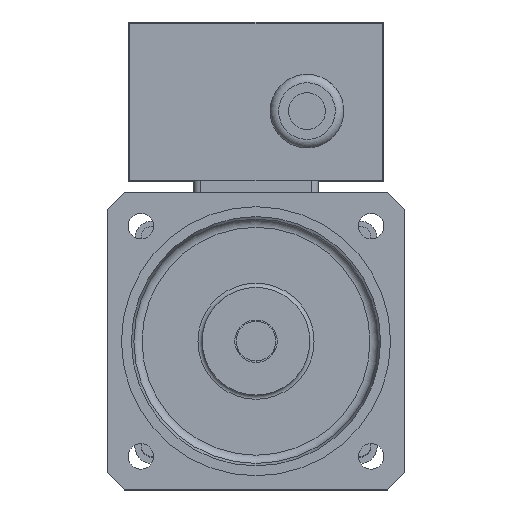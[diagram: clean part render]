
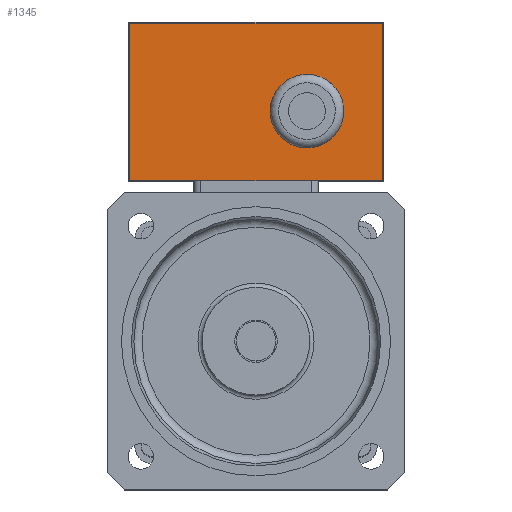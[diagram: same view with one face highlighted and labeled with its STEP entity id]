
A CAD part, top view. The second image highlights one B-rep face of the part: STEP entity #1345.
In plain terms, the highlighted planar face has unit normal (0, 0, 1) as drawn and (0, -1, 0) by its records, which use the part's own axes.
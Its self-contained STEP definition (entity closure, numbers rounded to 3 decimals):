
#487=FACE_BOUND('',#3267,.T.);
#773=PLANE('',#15171);
#1345=ADVANCED_FACE('',(#487,#2508),#773,.T.);
#2508=FACE_OUTER_BOUND('',#3268,.T.);
#3267=EDGE_LOOP('',(#7224));
#3268=EDGE_LOOP('',(#7225,#7226,#7227,#7228));
#4101=CIRCLE('',#15170,10.);
#7224=ORIENTED_EDGE('',*,*,#11298,.T.);
#7225=ORIENTED_EDGE('',*,*,#11299,.T.);
#7226=ORIENTED_EDGE('',*,*,#11300,.T.);
#7227=ORIENTED_EDGE('',*,*,#11301,.T.);
#7228=ORIENTED_EDGE('',*,*,#11302,.T.);
#9428=VERTEX_POINT('',#23059);
#9429=VERTEX_POINT('',#23061);
#9430=VERTEX_POINT('',#23062);
#9431=VERTEX_POINT('',#23064);
#9432=VERTEX_POINT('',#23066);
#11298=EDGE_CURVE('',#9428,#9428,#4101,.T.);
#11299=EDGE_CURVE('',#9429,#9430,#12753,.T.);
#11300=EDGE_CURVE('',#9430,#9431,#12754,.T.);
#11301=EDGE_CURVE('',#9431,#9432,#12755,.T.);
#11302=EDGE_CURVE('',#9432,#9429,#12756,.T.);
#12753=LINE('',#23060,#13851);
#12754=LINE('',#23063,#13852);
#12755=LINE('',#23065,#13853);
#12756=LINE('',#23067,#13854);
#13851=VECTOR('',#18599,1.);
#13852=VECTOR('',#18600,1.);
#13853=VECTOR('',#18601,1.);
#13854=VECTOR('',#18602,1.);
#15170=AXIS2_PLACEMENT_3D('',#23058,#18597,#18598);
#15171=AXIS2_PLACEMENT_3D('',#23068,#18603,#18604);
#18597=DIRECTION('',(0.,1.,0.));
#18598=DIRECTION('',(0.,0.,1.));
#18599=DIRECTION('',(-1.,0.,0.));
#18600=DIRECTION('',(0.,0.,-1.));
#18601=DIRECTION('',(1.,0.,0.));
#18602=DIRECTION('',(0.,0.,1.));
#18603=DIRECTION('',(0.,-1.,0.));
#18604=DIRECTION('',(0.,0.,-1.));
#23058=CARTESIAN_POINT('',(63.,0.,24.5));
#23059=CARTESIAN_POINT('',(63.,0.,34.5));
#23060=CARTESIAN_POINT('',(45.,0.,55.5));
#23061=CARTESIAN_POINT('',(89.5,0.,55.5));
#23062=CARTESIAN_POINT('',(0.5,0.,55.5));
#23063=CARTESIAN_POINT('',(0.5,0.,0.));
#23064=CARTESIAN_POINT('',(0.5,0.,0.));
#23065=CARTESIAN_POINT('',(45.,0.,0.));
#23066=CARTESIAN_POINT('',(89.5,0.,0.));
#23067=CARTESIAN_POINT('',(89.5,0.,0.));
#23068=CARTESIAN_POINT('',(45.,0.,0.));
